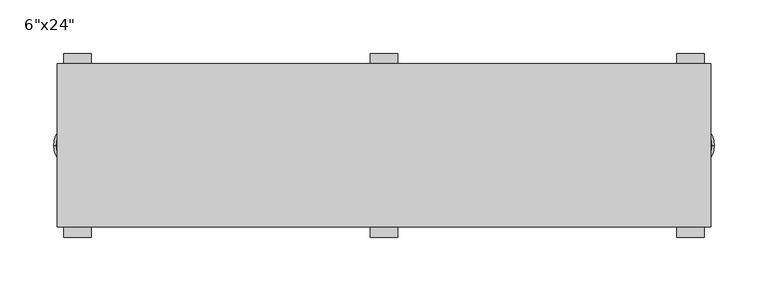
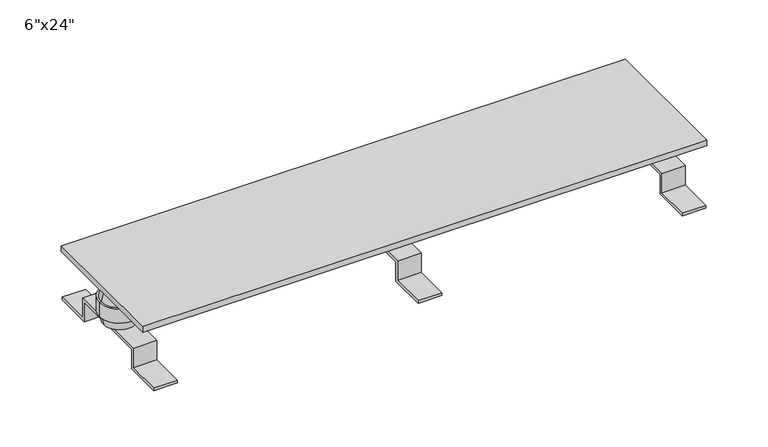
"""IFC4 building model written with IfcOpenShell, lengths in millimetres: proxy geometry."""

from ifc_helpers import new_model, si_unit, frame, origin, place, context, project, spatial, polyline, circle_curve, outline, extrude, source, transform, mapped, element, save
from ifc_brep_helpers import plane_surface, cylinder_surface, revolved_surface, advanced_brep


def proxy_9c06c916(model_context):
    return source(origin(), model_context, "Body", "SolidModel", [
        extrude(outline(polyline([(-47.625, 3.175), (-47.625, 25.4), (47.625, 25.4), (47.625, 3.175), (85.725, 3.175), (85.725, 0.0), (44.45, 0.0), (44.45, 22.225), (-44.45, 22.225), (-44.45, 0.0), (-85.725, 0.0), (-85.725, 3.175), (-47.625, 3.175)])), frame((-12.7, 0.0, 0.0), z_axis=(1.0, 0.0, 0.0), x_axis=(0.0, 1.0, 0.0)), (0.0, 0.0, 1.0), 25.4),
        extrude(outline(polyline([(-47.625, 3.175), (-47.625, 25.4), (47.625, 25.4), (47.625, 3.175), (85.725, 3.175), (85.725, 0.0), (44.45, 0.0), (44.45, 22.225), (-44.45, 22.225), (-44.45, 0.0), (-85.725, 0.0), (-85.725, 3.175), (-47.625, 3.175)])), frame((273.05, 0.0, 0.0), z_axis=(1.0, 0.0, 0.0), x_axis=(0.0, 1.0, 0.0)), (0.0, 0.0, 1.0), 25.4),
        extrude(outline(polyline([(-47.625, 3.175), (-47.625, 25.4), (47.625, 25.4), (47.625, 3.175), (85.725, 3.175), (85.725, 0.0), (44.45, 0.0), (44.45, 22.225), (-44.45, 22.225), (-44.45, 0.0), (-85.725, 0.0), (-85.725, 3.175), (-47.625, 3.175)])), frame((-298.45, 0.0, 0.0), z_axis=(1.0, 0.0, 0.0), x_axis=(0.0, 1.0, 0.0)), (0.0, 0.0, 1.0), 25.4),
        advanced_brep(
        [(307.975, 0.0, 36.449), (263.525, 0.0, 36.449), (263.525, 0.0, 52.451), (307.975, 0.0, 52.451), (305.562, 0.0, 36.449), (265.938, 0.0, 36.449), (303.276, 0.0, 25.4), (268.224, 0.0, 25.4), (285.75, 0.0, 25.4), (303.276, 0.0, 63.5), (268.224, 0.0, 63.5), (285.75, 0.0, 63.5), (305.562, 0.0, 52.451), (265.938, 0.0, 52.451)],
        [
            (0, 1, circle_curve(frame((285.75, 0.0, 36.449), z_axis=(0.0, 0.0, 1.0), x_axis=(-1.0, 0.0, 0.0)), 22.225)),
            (1, 2),
            (2, 3, circle_curve(frame((285.75, 0.0, 52.451), z_axis=(0.0, 0.0, -1.0), x_axis=(-1.0, 0.0, 0.0)), 22.225)),
            (3, 0),
            (1, 0, circle_curve(frame((285.75, 0.0, 36.449), z_axis=(0.0, 0.0, 1.0), x_axis=(-1.0, 0.0, 0.0)), 22.225)),
            (3, 2, circle_curve(frame((285.75, 0.0, 52.451), z_axis=(0.0, 0.0, -1.0), x_axis=(-1.0, 0.0, 0.0)), 22.225)),
            (4, 5, circle_curve(frame((285.75, 0.0, 36.449), z_axis=(0.0, 0.0, 1.0), x_axis=(-1.0, 0.0, 0.0)), 19.812)),
            (5, 1),
            (0, 4),
            (5, 4, circle_curve(frame((285.75, 0.0, 36.449), z_axis=(0.0, 0.0, 1.0), x_axis=(-1.0, 0.0, 0.0)), 19.812)),
            (6, 7, circle_curve(frame((285.75, 0.0, 25.4), z_axis=(0.0, 0.0, 1.0), x_axis=(-1.0, 0.0, 0.0)), 17.526)),
            (7, 5),
            (4, 6),
            (7, 6, circle_curve(frame((285.75, 0.0, 25.4), z_axis=(0.0, 0.0, 1.0), x_axis=(-1.0, 0.0, 0.0)), 17.526)),
            (8, 7),
            (6, 8),
            (9, 10, circle_curve(frame((285.75, 0.0, 63.5), z_axis=(0.0, 0.0, 1.0), x_axis=(-1.0, 0.0, 0.0)), 17.526)),
            (10, 11),
            (11, 9),
            (10, 9, circle_curve(frame((285.75, 0.0, 63.5), z_axis=(0.0, 0.0, 1.0), x_axis=(-1.0, 0.0, 0.0)), 17.526)),
            (12, 13, circle_curve(frame((285.75, 0.0, 52.451), z_axis=(0.0, 0.0, 1.0), x_axis=(-1.0, 0.0, 0.0)), 19.812)),
            (13, 10),
            (9, 12),
            (13, 12, circle_curve(frame((285.75, 0.0, 52.451), z_axis=(0.0, 0.0, 1.0), x_axis=(-1.0, 0.0, 0.0)), 19.812)),
            (2, 13),
            (12, 3),
        ],
        [
            cylinder_surface(frame((285.75, 0.0, -304.8), z_axis=(0.0, 0.0, -1.0), x_axis=(-1.0, 0.0, 0.0)), 22.225),
            plane_surface(frame((285.75, 0.0, 36.449), z_axis=(0.0, 0.0, -1.0), x_axis=(-1.0, 0.0, 0.0))),
            revolved_surface(polyline([(265.938, 0.0, 36.449), (268.224, 0.0, 25.4)]), (285.75, 0.0, -304.8), (0.0, 0.0, -1.0)),
            plane_surface(frame((285.75, 0.0, 25.4), z_axis=(0.0, 0.0, -1.0), x_axis=(-1.0, 0.0, 0.0))),
            plane_surface(frame((285.75, 0.0, 63.5), z_axis=(0.0, 0.0, 1.0), x_axis=(-1.0, 0.0, 0.0))),
            revolved_surface(polyline([(268.224, 0.0, 63.5), (265.938, 0.0, 52.451)]), (285.75, 0.0, -304.8), (0.0, 0.0, -1.0)),
            plane_surface(frame((285.75, 0.0, 52.451), z_axis=(0.0, 0.0, 1.0), x_axis=(-1.0, 0.0, 0.0))),
        ],
        [
            (0, [[1, 2, 3, 4]]),
            (0, [[5, -4, 6, -2]]),
            (1, [[7, 8, -1, 9]]),
            (1, [[10, -9, -5, -8]]),
            (2, [[11, 12, -7, 13]]),
            (2, [[14, -13, -10, -12]]),
            (3, [[15, -11, 16]]),
            (3, [[-16, -14, -15]]),
            (4, [[17, 18, 19]]),
            (4, [[20, -19, -18]]),
            (5, [[21, 22, -17, 23]]),
            (5, [[24, -23, -20, -22]]),
            (6, [[-3, 25, -21, 26]]),
            (6, [[-6, -26, -24, -25]]),
        ],
    ),
        advanced_brep(
        [(-263.525, 0.0, 36.449), (-307.975, 0.0, 36.449), (-307.975, 0.0, 52.451), (-263.525, 0.0, 52.451), (-265.938, 0.0, 36.449), (-305.562, 0.0, 36.449), (-268.224, 0.0, 25.4), (-303.276, 0.0, 25.4), (-285.75, 0.0, 25.4), (-268.224, 0.0, 63.5), (-303.276, 0.0, 63.5), (-285.75, 0.0, 63.5), (-265.938, 0.0, 52.451), (-305.562, 0.0, 52.451)],
        [
            (0, 1, circle_curve(frame((-285.75, 0.0, 36.449), z_axis=(0.0, 0.0, 1.0), x_axis=(-1.0, 0.0, 0.0)), 22.225)),
            (1, 2),
            (2, 3, circle_curve(frame((-285.75, 0.0, 52.451), z_axis=(0.0, 0.0, -1.0), x_axis=(-1.0, 0.0, 0.0)), 22.225)),
            (3, 0),
            (1, 0, circle_curve(frame((-285.75, 0.0, 36.449), z_axis=(0.0, 0.0, 1.0), x_axis=(-1.0, 0.0, 0.0)), 22.225)),
            (3, 2, circle_curve(frame((-285.75, 0.0, 52.451), z_axis=(0.0, 0.0, -1.0), x_axis=(-1.0, 0.0, 0.0)), 22.225)),
            (4, 5, circle_curve(frame((-285.75, 0.0, 36.449), z_axis=(0.0, 0.0, 1.0), x_axis=(-1.0, 0.0, 0.0)), 19.812)),
            (5, 1),
            (0, 4),
            (5, 4, circle_curve(frame((-285.75, 0.0, 36.449), z_axis=(0.0, 0.0, 1.0), x_axis=(-1.0, 0.0, 0.0)), 19.812)),
            (6, 7, circle_curve(frame((-285.75, 0.0, 25.4), z_axis=(0.0, 0.0, 1.0), x_axis=(-1.0, 0.0, 0.0)), 17.526)),
            (7, 5),
            (4, 6),
            (7, 6, circle_curve(frame((-285.75, 0.0, 25.4), z_axis=(0.0, 0.0, 1.0), x_axis=(-1.0, 0.0, 0.0)), 17.526)),
            (8, 7),
            (6, 8),
            (9, 10, circle_curve(frame((-285.75, 0.0, 63.5), z_axis=(0.0, 0.0, 1.0), x_axis=(-1.0, 0.0, 0.0)), 17.526)),
            (10, 11),
            (11, 9),
            (10, 9, circle_curve(frame((-285.75, 0.0, 63.5), z_axis=(0.0, 0.0, 1.0), x_axis=(-1.0, 0.0, 0.0)), 17.526)),
            (12, 13, circle_curve(frame((-285.75, 0.0, 52.451), z_axis=(0.0, 0.0, 1.0), x_axis=(-1.0, 0.0, 0.0)), 19.812)),
            (13, 10),
            (9, 12),
            (13, 12, circle_curve(frame((-285.75, 0.0, 52.451), z_axis=(0.0, 0.0, 1.0), x_axis=(-1.0, 0.0, 0.0)), 19.812)),
            (2, 13),
            (12, 3),
        ],
        [
            cylinder_surface(frame((-285.75, 0.0, -304.8), z_axis=(0.0, 0.0, -1.0), x_axis=(-1.0, 0.0, 0.0)), 22.225),
            plane_surface(frame((-285.75, 0.0, 36.449), z_axis=(0.0, 0.0, -1.0), x_axis=(-1.0, 0.0, 0.0))),
            revolved_surface(polyline([(-305.562, 0.0, 36.449), (-303.276, 0.0, 25.4)]), (-285.75, 0.0, -304.8), (0.0, 0.0, -1.0)),
            plane_surface(frame((-285.75, 0.0, 25.4), z_axis=(0.0, 0.0, -1.0), x_axis=(-1.0, 0.0, 0.0))),
            plane_surface(frame((-285.75, 0.0, 63.5), z_axis=(0.0, 0.0, 1.0), x_axis=(-1.0, 0.0, 0.0))),
            revolved_surface(polyline([(-303.276, 0.0, 63.5), (-305.562, 0.0, 52.451)]), (-285.75, 0.0, -304.8), (0.0, 0.0, -1.0)),
            plane_surface(frame((-285.75, 0.0, 52.451), z_axis=(0.0, 0.0, 1.0), x_axis=(-1.0, 0.0, 0.0))),
        ],
        [
            (0, [[1, 2, 3, 4]]),
            (0, [[5, -4, 6, -2]]),
            (1, [[7, 8, -1, 9]]),
            (1, [[10, -9, -5, -8]]),
            (2, [[11, 12, -7, 13]]),
            (2, [[14, -13, -10, -12]]),
            (3, [[15, -11, 16]]),
            (3, [[-16, -14, -15]]),
            (4, [[17, 18, 19]]),
            (4, [[20, -19, -18]]),
            (5, [[21, 22, -17, 23]]),
            (5, [[24, -23, -20, -22]]),
            (6, [[-3, 25, -21, 26]]),
            (6, [[-6, -26, -24, -25]]),
        ],
    ),
        extrude(outline(polyline([(304.8, 76.2), (304.8, -76.2), (-304.8, -76.2), (-304.8, 76.2), (304.8, 76.2)])), frame((0.0, 0.0, 63.5), z_axis=(0.0, 0.0, 1.0), x_axis=(1.0, 0.0, 0.0)), (0.0, 0.0, 1.0), 6.35),
    ])


if __name__ == "__main__":
    model = new_model("IFC4")
    model_context = context("Model", 3, world=origin())
    ifc_project = project(units=[si_unit("LENGTHUNIT", "METRE", prefix="MILLI")], contexts=[model_context])
    site = spatial("IfcSite", under=ifc_project)
    building = spatial("IfcBuilding", under=site)
    placement = place(None, origin())
    proxy_shape = proxy_9c06c916(model_context)
    element("IfcBuildingElementProxy", 1, Name="OMAHA - Grounding_Bar-Surface_Mount : 6\"x24\"", ObjectType="OMAHA - Grounding_Bar-Surface_Mount : 6\"x24\"", at=placement, inside=building, context=model_context, shape_type="MappedRepresentation", body=[
        mapped(proxy_shape, transform((0.0, 0.0, 0.0), x_axis=(1.0, 0.0, 0.0), y_axis=(0.0, 1.0, 0.0), z_axis=(0.0, 0.0, 1.0))),
    ])
    save(model, "model.ifc")
